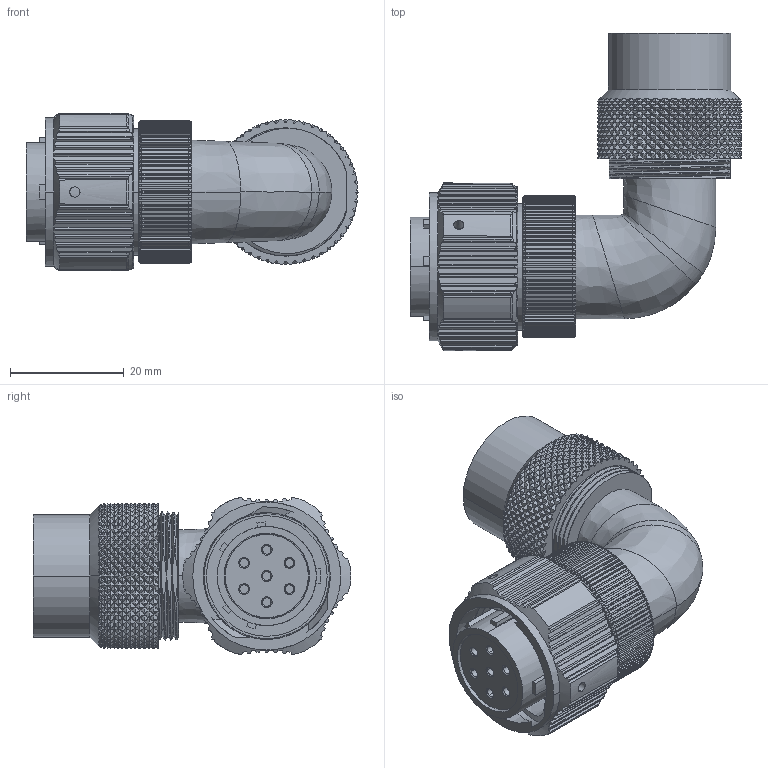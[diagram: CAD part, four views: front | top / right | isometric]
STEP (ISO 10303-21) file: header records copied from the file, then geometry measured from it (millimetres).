
FILE_DESCRIPTION((''),'2;1');
FILE_NAME('WY20K7TW3','2020-06-05T',('Administrator'),(''),'CREO PARAMETRIC BY PTC INC, 2016130','CREO PARAMETRIC BY PTC INC, 2016130','');
FILE_SCHEMA(('CONFIG_CONTROL_DESIGN'));
Length unit declared in the file: millimetre
Products named in the file (1): WY20K7TW3
Bounding box: 58.31 x 55.73 x 27.75 mm (x, y, z)
Volume: 25684.9 mm3; surface area: 15947 mm2
Topology: 1 solids, 4 shells, 4559 faces, 9799 edges, 5257 vertices
Faces by surface type: bspline 3125, cylinder 788, plane 538, cone 65, torus 31, sphere 12
Entity records: 199557 total; most frequent: CARTESIAN_POINT 128496, ORIENTED_EDGE 19574, EDGE_CURVE 9787, B_SPLINE_CURVE_WITH_KNOTS 8161, VERTEX_POINT 5257, DIRECTION 5250, EDGE_LOOP 4594, FACE_OUTER_BOUND 4559
